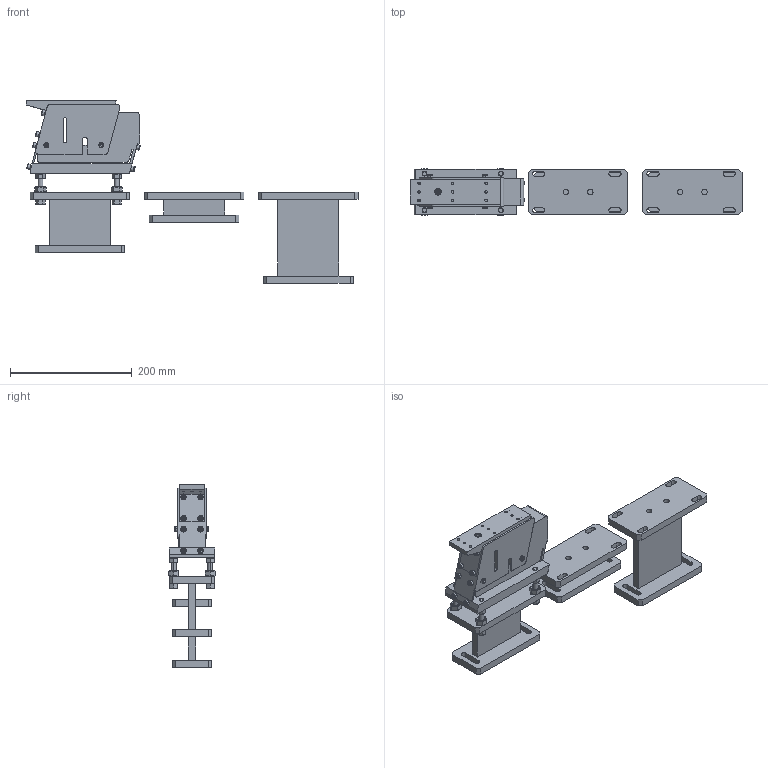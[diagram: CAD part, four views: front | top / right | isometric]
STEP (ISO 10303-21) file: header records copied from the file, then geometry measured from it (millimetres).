
FILE_DESCRIPTION (( 'STEP AP203' ), '1' );
FILE_NAME ('ZA150 盓殤恁饜23.05.07 載陔.STEP', '2023-05-07T01:15:08', ( '' ), ( '' ), 'SwSTEP 2.0', 'SolidWorks 2022', '' );
FILE_SCHEMA (( 'CONFIG_CONTROL_DESIGN' ));
Length unit declared in the file: millimetre
Products named in the file (1): ZA150 盓殤恁饜23.05.07 載陔
Bounding box: 544.5 x 76 x 300.03 mm (x, y, z)
Volume: 1928994.9 mm3; surface area: 362598.9 mm2
Topology: 48 solids, 50 shells, 1138 faces, 2687 edges, 1659 vertices
Faces by surface type: plane 590, cylinder 296, cone 214, bspline 38
Entity records: 33272 total; most frequent: CARTESIAN_POINT 6961, DIRECTION 5585, ORIENTED_EDGE 5258, EDGE_CURVE 2629, AXIS2_PLACEMENT_3D 2051, VERTEX_POINT 1659, VECTOR 1483, LINE 1483
